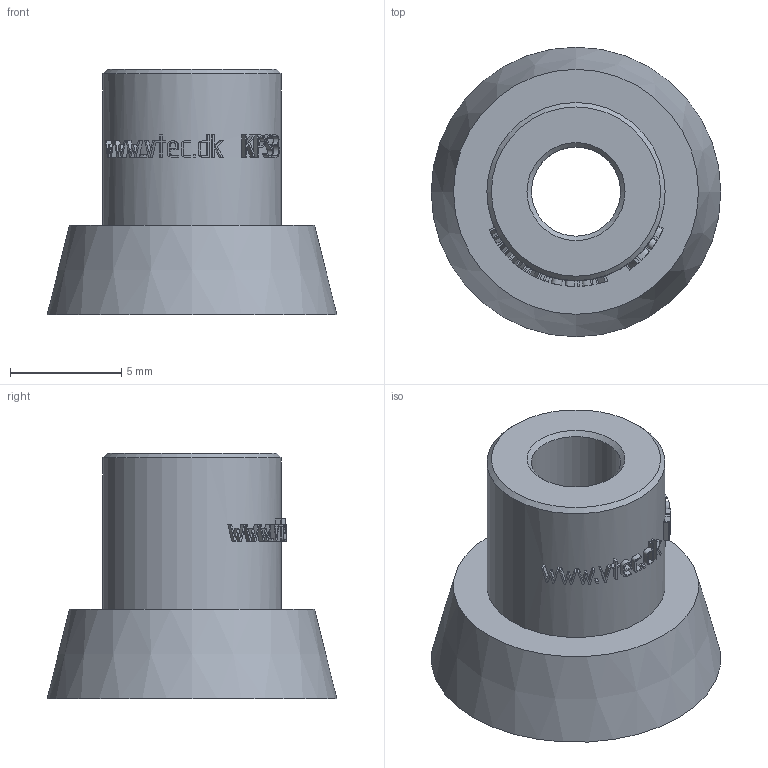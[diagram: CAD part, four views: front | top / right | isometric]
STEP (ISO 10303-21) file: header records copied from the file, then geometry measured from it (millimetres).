
FILE_DESCRIPTION( ( 'STEP AP203' ), '1' );
FILE_NAME( 'C:/撲啗紫賊-02/3D-蘋驍煎斜/Vacuum Pad/KPS series/KPS-3.stp', '2006-04-24T10:59:10', ( ' ' ), ( ' ' ), 'XStep 1.0', ' ', ' ' );
FILE_SCHEMA( ( 'CONFIG_CONTROL_DESIGN) ( )' ) );
Length unit declared in the file: metre
Products named in the file (1): 1
Bounding box: 13 x 13 x 11 mm (x, y, z)
Volume: 428.1 mm3; surface area: 702.7 mm2
Topology: 1 solids, 1 shells, 171 faces, 445 edges, 296 vertices
Faces by surface type: plane 69, bspline 68, cylinder 20, sphere 8, cone 5, torus 1
Full cylindrical faces by diameter (mm): 4 x1, 8 x1
Entity records: 8002 total; most frequent: CARTESIAN_POINT 4322, ORIENTED_EDGE 838, DIRECTION 553, EDGE_CURVE 419, VERTEX_POINT 286, EDGE_LOOP 209, AXIS2_PLACEMENT_3D 196, FACE_OUTER_BOUND 174
